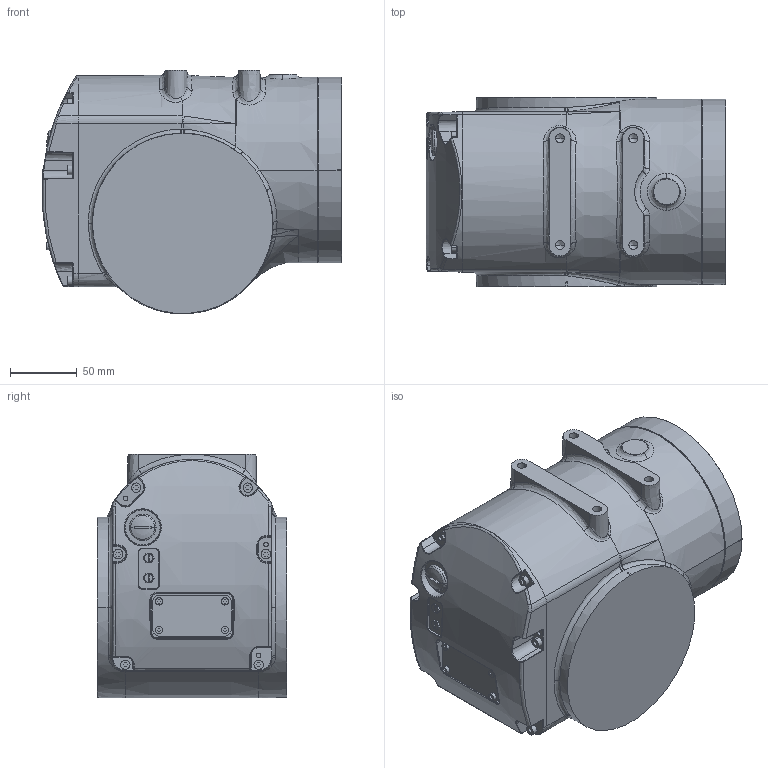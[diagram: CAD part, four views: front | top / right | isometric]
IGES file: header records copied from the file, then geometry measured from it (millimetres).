
Start section:  PTC IGES file: u_view_yr-n1-06vx7-c00.igs
Global section: file name: u_view_yr-n1-06vx7-c00.igs; native system: Creo Parametric by PTC Inc.; preprocessor: 2021072; author: mttm21; organization: Unknown; date: 20250919.181727; units: millimetre
Bounding box: 224.55 x 142 x 182.95 mm (x, y, z)
Volume: 4232391.6 mm3; surface area: 164090.9 mm2
Topology: 1 solids, 1 shells, 493 faces, 1188 edges, 728 vertices
Faces by surface type: bspline 313, revolution 180
